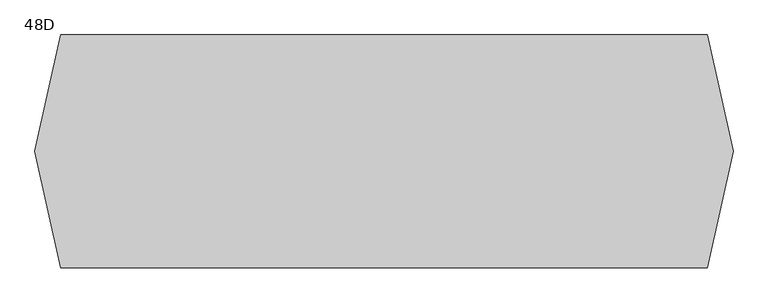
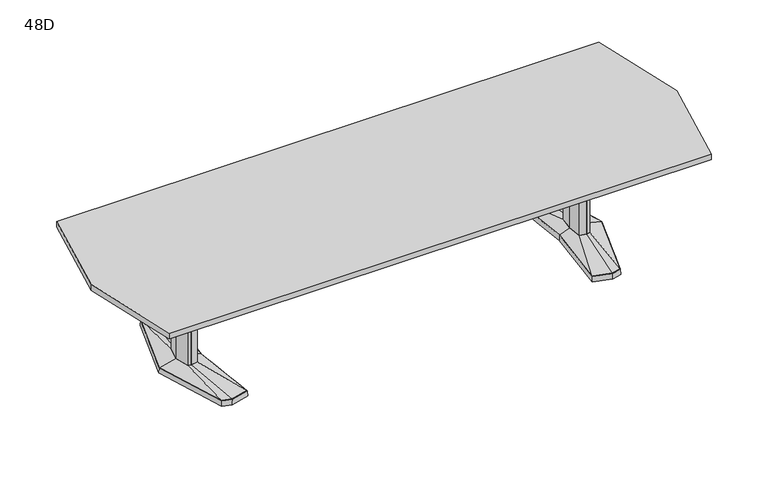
"""IFC4 building model written with IfcOpenShell, lengths in millimetres: furniture geometry, Coalesse_AM_Table_Conference_ETable2_Faceted_12ft_AluminiumBase : 48D."""

from ifc_helpers import new_model, si_unit, frame, origin, place, context, project, spatial, polyline, outline, extrude, faceted_brep, source, transform, mapped, element, save
from ifc_brep_helpers import plane_surface, spline_surface, advanced_brep


def furniture_48d_c501f17e(model_context):
    return source(origin(), model_context, "Body", "SolidModel", [
        faceted_brep([(1165.3869335, 455.5848221, 38.1), (1055.8093777, 426.2263816, 38.1), (1096.9726217, 0.0, 38.1), (1055.8093777, -426.2263816, 38.1), (1165.3869335, -455.5848221, 38.1), (1221.5132896, -440.5478297, 38.1), (1358.8246769, 0.0, 38.1), (1221.5132896, 440.5478297, 38.1), (1165.3869254, 457.2283104, 3.175), (1222.7686972, 441.8549756, 3.175), (1360.4875, 0.0, 3.175), (1222.7686972, -441.8549756, 3.175), (1165.3869254, -457.2283104, 3.175), (1054.1, -427.4118891, 3.175), (1095.3777356, 0.0, 3.175), (1054.1, 427.4118891, 3.175), (1168.976365, 428.3273875, 3.175), (1063.9280728, 402.1057253, 3.175), (1072.046768, 377.985069, 3.175), (1172.5657966, 401.0699529, 3.175), (1223.1254225, 387.524361, 3.175), (1222.3193561, 414.0360954, 3.175), (1168.976365, -428.3273875, 3.175), (1222.3193561, -414.0360954, 3.175), (1223.1254225, -387.524361, 3.175), (1172.5657966, -401.0699529, 3.175), (1072.046768, -377.985069, 3.175), (1063.9280728, -402.1057253, 3.175), (1295.5716121, 0.0, 3.175), (1263.3022111, 120.4193755, 3.175), (1214.6549722, 133.471665, 3.175), (1134.7743026, 119.4176561, 3.175), (1123.6430966, 0.0, 3.175), (1134.7743026, -119.4176561, 3.175), (1214.6549722, -133.471665, 3.175), (1263.3022111, -120.4193755, 3.175), (1168.976365, 428.3273875, 0.0), (1222.3193561, 414.0360954, 0.0), (1223.1254225, 387.524361, 0.0), (1172.5657966, 401.0699529, 0.0), (1072.046768, 377.985069, 0.0), (1063.9280728, 402.1057253, 0.0), (1168.976365, -428.3273875, 0.0), (1063.9280728, -402.1057253, 0.0), (1072.046768, -377.985069, 0.0), (1172.5657966, -401.0699529, 0.0), (1223.1254225, -387.524361, 0.0), (1222.3193561, -414.0360954, 0.0), (1295.5716121, 0.0, 0.0), (1263.3022111, -120.4193755, 0.0), (1214.6549722, -133.471665, 0.0), (1134.7743026, -119.4176561, 0.0), (1123.6430966, 0.0, 0.0), (1134.7743026, 119.4176561, 0.0), (1214.6549722, 133.471665, 0.0), (1263.3022111, 120.4193755, 0.0)], [[[0, 1, 2, 3, 4, 5, 6, 7]], [[8, 9, 10, 11, 12, 13, 14, 15], [16, 17, 18, 19, 20, 21], [22, 23, 24, 25, 26, 27], [28, 29, 30, 31, 32, 33, 34, 35]], [[7, 9, 8, 0]], [[6, 10, 9, 7]], [[5, 11, 10, 6]], [[4, 12, 11, 5]], [[3, 13, 12, 4]], [[2, 14, 13, 3]], [[1, 15, 14, 2]], [[0, 8, 15, 1]], [[36, 37, 38, 39, 40, 41]], [[42, 43, 44, 45, 46, 47]], [[48, 49, 50, 51, 52, 53, 54, 55]], [[36, 16, 21, 37]], [[37, 21, 20, 38]], [[38, 20, 19, 39]], [[39, 19, 18, 40]], [[40, 18, 17, 41]], [[41, 17, 16, 36]], [[42, 22, 27, 43]], [[43, 27, 26, 44]], [[44, 26, 25, 45]], [[45, 25, 24, 46]], [[46, 24, 23, 47]], [[47, 23, 22, 42]], [[48, 28, 35, 49]], [[49, 35, 34, 50]], [[50, 34, 33, 51]], [[51, 33, 32, 52]], [[52, 32, 31, 53]], [[53, 31, 30, 54]], [[54, 30, 29, 55]], [[55, 29, 28, 48]]]),
        faceted_brep([(1256.1273336, 0.0, 698.5), (1232.1921046, 89.3188359, 698.5), (1215.3387484, 93.8406728, 698.5), (1212.9389011, 94.4845635, 698.5), (1170.011396, 86.9320037, 698.5), (1161.9082556, 0.0, 698.5), (1170.011396, -86.9320037, 698.5), (1212.9389011, -94.4845635, 698.5), (1215.3387484, -93.8406728, 698.5), (1232.1921046, -89.3188359, 698.5), (1256.1273336, 0.0, 63.5), (1232.1921046, -89.3188359, 63.5), (1215.3387484, -93.8406728, 63.5), (1212.9389011, -94.4845635, 63.5), (1170.011396, -86.9320037, 63.5), (1161.9082556, 0.0, 63.5), (1170.011396, 86.9320037, 63.5), (1212.9389011, 94.4845635, 63.5), (1215.3387484, 93.8406728, 63.5), (1232.1921046, 89.3188359, 63.5)], [[[0, 1, 2, 3, 4, 5, 6, 7, 8, 9]], [[10, 11, 12, 13, 14, 15, 16, 17, 18, 19]], [[9, 11, 10, 0]], [[8, 12, 11, 9]], [[7, 13, 12, 8]], [[6, 14, 13, 7]], [[5, 15, 14, 6]], [[4, 16, 15, 5]], [[3, 17, 16, 4]], [[2, 18, 17, 3]], [[1, 19, 18, 2]], [[0, 10, 19, 1]]]),
        advanced_brep(
        [(1212.9389011, 94.4845635, 63.5), (1170.011396, 86.9320037, 63.5), (1161.9082556, 0.0, 63.5), (1170.011396, -86.9320037, 63.5), (1212.9389011, -94.4845635, 63.5), (1232.1921046, -89.3188359, 63.5), (1256.1273336, 0.0, 63.5), (1232.1921046, 89.3188359, 63.5), (1165.3869335, 455.5848221, 38.1), (1221.5132896, 440.5478297, 38.1), (1358.8246769, 0.0, 38.1), (1221.5132896, -440.5478297, 38.1), (1165.3869335, -455.5848221, 38.1), (1055.8093777, -426.2263816, 38.1), (1096.9726217, 0.0, 38.1), (1055.8093777, 426.2263816, 38.1)],
        [
            (0, 1),
            (1, 2),
            (2, 3),
            (3, 4),
            (4, 5),
            (5, 6),
            (6, 7),
            (7, 0),
            (8, 9),
            (9, 10),
            (10, 11),
            (11, 12),
            (12, 13),
            (13, 14),
            (14, 15),
            (15, 8),
            (8, 0),
            (7, 9),
            (6, 10),
            (5, 11),
            (4, 12),
            (3, 13),
            (2, 14),
            (1, 15),
        ],
        [
            plane_surface(frame((1206.0400491, 0.0, 63.5), z_axis=(0.0, 0.0, 1.0), x_axis=(-0.25884244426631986, -0.9659195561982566, 0.0))),
            plane_surface(frame((1167.6520625, 0.0, 38.1), z_axis=(0.0, 0.0, -1.0), x_axis=(-0.25884244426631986, -0.9659195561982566, 0.0))),
            spline_surface(1, 1, [[(1165.3869335, 455.5848221, 38.1), (1221.5132896, 440.5478297, 38.1)], [(1212.9389011, 94.4845635, 63.5), (1232.1921046, 89.3188359, 63.5)]], [2, 2], [2, 2], [0.0, 1.0], [0.0, 1.0]),
            spline_surface(1, 1, [[(1221.5132896, 440.5478297, 38.1), (1358.8246769, 0.0, 38.1)], [(1232.1921046, 89.3188359, 63.5), (1256.1273336, 0.0, 63.5)]], [2, 2], [2, 2], [0.0, 1.0], [0.0, 1.0]),
            spline_surface(1, 1, [[(1358.8246769, 0.0, 38.1), (1221.5132896, -440.5478297, 38.1)], [(1256.1273336, 0.0, 63.5), (1232.1921046, -89.3188359, 63.5)]], [2, 2], [2, 2], [0.0, 1.0], [0.0, 1.0]),
            spline_surface(1, 1, [[(1221.5132896, -440.5478297, 38.1), (1165.3869335, -455.5848221, 38.1)], [(1232.1921046, -89.3188359, 63.5), (1212.9389011, -94.4845635, 63.5)]], [2, 2], [2, 2], [0.0, 1.0], [0.0, 1.0]),
            spline_surface(1, 1, [[(1165.3869335, -455.5848221, 38.1), (1055.8093777, -426.2263816, 38.1)], [(1212.9389011, -94.4845635, 63.5), (1170.011396, -86.9320037, 63.5)]], [2, 2], [2, 2], [0.0, 1.0], [0.0, 1.0]),
            spline_surface(1, 1, [[(1055.8093777, -426.2263816, 38.1), (1096.9726217, 0.0, 38.1)], [(1170.011396, -86.9320037, 63.5), (1161.9082556, 0.0, 63.5)]], [2, 2], [2, 2], [0.0, 1.0], [0.0, 1.0]),
            spline_surface(1, 1, [[(1096.9726217, 0.0, 38.1), (1055.8093777, 426.2263816, 38.1)], [(1161.9082556, 0.0, 63.5), (1170.011396, 86.9320037, 63.5)]], [2, 2], [2, 2], [0.0, 1.0], [0.0, 1.0]),
            spline_surface(1, 1, [[(1055.8093777, 426.2263816, 38.1), (1165.3869335, 455.5848221, 38.1)], [(1170.011396, 86.9320037, 63.5), (1212.9389011, 94.4845635, 63.5)]], [2, 2], [2, 2], [0.0, 1.0], [0.0, 1.0]),
        ],
        [
            (0, [[1, 2, 3, 4, 5, 6, 7, 8]]),
            (1, [[9, 10, 11, 12, 13, 14, 15, 16]]),
            (2, [[17, -8, 18, -9]]),
            (3, [[-18, -7, 19, -10]]),
            (4, [[-19, -6, 20, -11]]),
            (5, [[-20, -5, 21, -12]]),
            (6, [[-21, -4, 22, -13]]),
            (7, [[-22, -3, 23, -14]]),
            (8, [[-23, -2, 24, -15]]),
            (9, [[-24, -1, -17, -16]]),
        ],
    ),
        faceted_brep([(-1210.6306835, 455.5848221, 38.1), (-1266.7570396, 440.5478297, 38.1), (-1404.0684269, 0.0, 38.1), (-1266.7570396, -440.5478297, 38.1), (-1210.6306835, -455.5848221, 38.1), (-1101.0531277, -426.2263816, 38.1), (-1142.2163717, 0.0, 38.1), (-1101.0531277, 426.2263816, 38.1), (-1210.6306754, 457.2283104, 3.175), (-1099.34375, 427.4118891, 3.175), (-1140.6214856, 0.0, 3.175), (-1099.34375, -427.4118891, 3.175), (-1210.6306754, -457.2283104, 3.175), (-1268.0124472, -441.8549756, 3.175), (-1405.73125, 0.0, 3.175), (-1268.0124472, 441.8549756, 3.175), (-1214.220115, 428.3273875, 3.175), (-1267.5631061, 414.0360954, 3.175), (-1268.3691725, 387.524361, 3.175), (-1217.8095466, 401.0699529, 3.175), (-1117.290518, 377.985069, 3.175), (-1109.1718228, 402.1057253, 3.175), (-1214.220115, -428.3273875, 3.175), (-1109.1718228, -402.1057253, 3.175), (-1117.290518, -377.985069, 3.175), (-1217.8095466, -401.0699529, 3.175), (-1268.3691725, -387.524361, 3.175), (-1267.5631061, -414.0360954, 3.175), (-1340.8153621, 0.0, 3.175), (-1308.5459611, -120.4193755, 3.175), (-1259.8987222, -133.471665, 3.175), (-1180.0180526, -119.4176561, 3.175), (-1168.8868466, 0.0, 3.175), (-1180.0180526, 119.4176561, 3.175), (-1259.8987222, 133.471665, 3.175), (-1308.5459611, 120.4193755, 3.175), (-1214.220115, 428.3273875, 0.0), (-1109.1718228, 402.1057253, 0.0), (-1117.290518, 377.985069, 0.0), (-1217.8095466, 401.0699529, 0.0), (-1268.3691725, 387.524361, 0.0), (-1267.5631061, 414.0360954, 0.0), (-1214.220115, -428.3273875, 0.0), (-1267.5631061, -414.0360954, 0.0), (-1268.3691725, -387.524361, 0.0), (-1217.8095466, -401.0699529, 0.0), (-1117.290518, -377.985069, 0.0), (-1109.1718228, -402.1057253, 0.0), (-1340.8153621, 0.0, 0.0), (-1308.5459611, 120.4193755, 0.0), (-1259.8987222, 133.471665, 0.0), (-1180.0180526, 119.4176561, 0.0), (-1168.8868466, 0.0, 0.0), (-1180.0180526, -119.4176561, 0.0), (-1259.8987222, -133.471665, 0.0), (-1308.5459611, -120.4193755, 0.0)], [[[0, 1, 2, 3, 4, 5, 6, 7]], [[8, 9, 10, 11, 12, 13, 14, 15], [16, 17, 18, 19, 20, 21], [22, 23, 24, 25, 26, 27], [28, 29, 30, 31, 32, 33, 34, 35]], [[1, 0, 8, 15]], [[2, 1, 15, 14]], [[3, 2, 14, 13]], [[4, 3, 13, 12]], [[5, 4, 12, 11]], [[6, 5, 11, 10]], [[7, 6, 10, 9]], [[0, 7, 9, 8]], [[36, 37, 38, 39, 40, 41]], [[42, 43, 44, 45, 46, 47]], [[48, 49, 50, 51, 52, 53, 54, 55]], [[36, 41, 17, 16]], [[41, 40, 18, 17]], [[40, 39, 19, 18]], [[39, 38, 20, 19]], [[38, 37, 21, 20]], [[37, 36, 16, 21]], [[42, 47, 23, 22]], [[47, 46, 24, 23]], [[46, 45, 25, 24]], [[45, 44, 26, 25]], [[44, 43, 27, 26]], [[43, 42, 22, 27]], [[48, 55, 29, 28]], [[55, 54, 30, 29]], [[54, 53, 31, 30]], [[53, 52, 32, 31]], [[52, 51, 33, 32]], [[51, 50, 34, 33]], [[50, 49, 35, 34]], [[49, 48, 28, 35]]]),
        faceted_brep([(-1301.3710836, 0.0, 698.5), (-1277.4358546, -89.3188359, 698.5), (-1260.5824984, -93.8406728, 698.5), (-1258.1826511, -94.4845635, 698.5), (-1215.255146, -86.9320037, 698.5), (-1207.1520056, 0.0, 698.5), (-1215.255146, 86.9320037, 698.5), (-1258.1826511, 94.4845635, 698.5), (-1260.5824984, 93.8406728, 698.5), (-1277.4358546, 89.3188359, 698.5), (-1301.3710836, 0.0, 63.5), (-1277.4358546, 89.3188359, 63.5), (-1260.5824984, 93.8406728, 63.5), (-1258.1826511, 94.4845635, 63.5), (-1215.255146, 86.9320037, 63.5), (-1207.1520056, 0.0, 63.5), (-1215.255146, -86.9320037, 63.5), (-1258.1826511, -94.4845635, 63.5), (-1260.5824984, -93.8406728, 63.5), (-1277.4358546, -89.3188359, 63.5)], [[[0, 1, 2, 3, 4, 5, 6, 7, 8, 9]], [[10, 11, 12, 13, 14, 15, 16, 17, 18, 19]], [[1, 0, 10, 19]], [[2, 1, 19, 18]], [[3, 2, 18, 17]], [[4, 3, 17, 16]], [[5, 4, 16, 15]], [[6, 5, 15, 14]], [[7, 6, 14, 13]], [[8, 7, 13, 12]], [[9, 8, 12, 11]], [[0, 9, 11, 10]]]),
        advanced_brep(
        [(-1258.1826511, 94.4845635, 63.5), (-1277.4358546, 89.3188359, 63.5), (-1301.3710836, 0.0, 63.5), (-1277.4358546, -89.3188359, 63.5), (-1258.1826511, -94.4845635, 63.5), (-1215.255146, -86.9320037, 63.5), (-1207.1520056, 0.0, 63.5), (-1215.255146, 86.9320037, 63.5), (-1210.6306835, 455.5848221, 38.1), (-1101.0531277, 426.2263816, 38.1), (-1142.2163717, 0.0, 38.1), (-1101.0531277, -426.2263816, 38.1), (-1210.6306835, -455.5848221, 38.1), (-1266.7570396, -440.5478297, 38.1), (-1404.0684269, 0.0, 38.1), (-1266.7570396, 440.5478297, 38.1)],
        [
            (0, 1),
            (1, 2),
            (2, 3),
            (3, 4),
            (4, 5),
            (5, 6),
            (6, 7),
            (7, 0),
            (8, 9),
            (9, 10),
            (10, 11),
            (11, 12),
            (12, 13),
            (13, 14),
            (14, 15),
            (15, 8),
            (15, 1),
            (0, 8),
            (14, 2),
            (13, 3),
            (12, 4),
            (11, 5),
            (10, 6),
            (9, 7),
        ],
        [
            plane_surface(frame((-1251.2837991, 0.0, 63.5), z_axis=(0.0, 0.0, 1.0), x_axis=(0.25884244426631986, -0.9659195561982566, 0.0))),
            plane_surface(frame((-1212.8958125, 0.0, 38.1), z_axis=(0.0, 0.0, -1.0), x_axis=(0.25884244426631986, -0.9659195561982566, 0.0))),
            spline_surface(1, 1, [[(-1210.6306835, 455.5848221, 38.1), (-1258.1826511, 94.4845635, 63.5)], [(-1266.7570396, 440.5478297, 38.1), (-1277.4358546, 89.3188359, 63.5)]], [2, 2], [2, 2], [0.0, 1.0], [0.0, 1.0]),
            spline_surface(1, 1, [[(-1266.7570396, 440.5478297, 38.1), (-1277.4358546, 89.3188359, 63.5)], [(-1404.0684269, 0.0, 38.1), (-1301.3710836, 0.0, 63.5)]], [2, 2], [2, 2], [0.0, 1.0], [0.0, 1.0]),
            spline_surface(1, 1, [[(-1404.0684269, 0.0, 38.1), (-1301.3710836, 0.0, 63.5)], [(-1266.7570396, -440.5478297, 38.1), (-1277.4358546, -89.3188359, 63.5)]], [2, 2], [2, 2], [0.0, 1.0], [0.0, 1.0]),
            spline_surface(1, 1, [[(-1266.7570396, -440.5478297, 38.1), (-1277.4358546, -89.3188359, 63.5)], [(-1210.6306835, -455.5848221, 38.1), (-1258.1826511, -94.4845635, 63.5)]], [2, 2], [2, 2], [0.0, 1.0], [0.0, 1.0]),
            spline_surface(1, 1, [[(-1210.6306835, -455.5848221, 38.1), (-1258.1826511, -94.4845635, 63.5)], [(-1101.0531277, -426.2263816, 38.1), (-1215.255146, -86.9320037, 63.5)]], [2, 2], [2, 2], [0.0, 1.0], [0.0, 1.0]),
            spline_surface(1, 1, [[(-1101.0531277, -426.2263816, 38.1), (-1215.255146, -86.9320037, 63.5)], [(-1142.2163717, 0.0, 38.1), (-1207.1520056, 0.0, 63.5)]], [2, 2], [2, 2], [0.0, 1.0], [0.0, 1.0]),
            spline_surface(1, 1, [[(-1142.2163717, 0.0, 38.1), (-1207.1520056, 0.0, 63.5)], [(-1101.0531277, 426.2263816, 38.1), (-1215.255146, 86.9320037, 63.5)]], [2, 2], [2, 2], [0.0, 1.0], [0.0, 1.0]),
            spline_surface(1, 1, [[(-1101.0531277, 426.2263816, 38.1), (-1215.255146, 86.9320037, 63.5)], [(-1210.6306835, 455.5848221, 38.1), (-1258.1826511, 94.4845635, 63.5)]], [2, 2], [2, 2], [0.0, 1.0], [0.0, 1.0]),
        ],
        [
            (0, [[1, 2, 3, 4, 5, 6, 7, 8]]),
            (1, [[9, 10, 11, 12, 13, 14, 15, 16]]),
            (2, [[-16, 17, -1, 18]]),
            (3, [[-15, 19, -2, -17]]),
            (4, [[-14, 20, -3, -19]]),
            (5, [[-13, 21, -4, -20]]),
            (6, [[-12, 22, -5, -21]]),
            (7, [[-11, 23, -6, -22]]),
            (8, [[-10, 24, -7, -23]]),
            (9, [[-9, -18, -8, -24]]),
        ],
    ),
        extrude(outline(polyline([(-1828.8, 0.0), (-1693.6541794, 609.6), (1693.6541794, 609.6), (1828.8, 0.0), (1693.6541794, -609.6), (-1693.6541794, -609.6), (-1828.8, 0.0)])), frame((0.0, 0.0, 698.5), z_axis=(0.0, 0.0, 1.0), x_axis=(1.0, 0.0, 0.0)), (0.0, 0.0, 1.0), 38.1),
        extrude(outline(polyline([(96.8375, 698.5), (103.1875, 698.5), (103.1875, 476.25), (-103.1875, 476.25), (-103.1875, 698.5), (-96.8375, 698.5), (-96.8375, 482.6), (96.8375, 482.6), (96.8375, 698.5)])), frame((-1207.29375, 0.0, 0.0), z_axis=(1.0, 0.0, 0.0), x_axis=(0.0, 1.0, 0.0)), (0.0, 0.0, 1.0), 2414.5875),
    ])


if __name__ == "__main__":
    model = new_model("IFC4")
    model_context = context("Model", 3, world=origin())
    ifc_project = project(units=[si_unit("LENGTHUNIT", "METRE", prefix="MILLI")], contexts=[model_context])
    site = spatial("IfcSite", under=ifc_project)
    building = spatial("IfcBuilding", under=site)
    placement = place(None, origin())
    furniture_48d_shape = furniture_48d_c501f17e(model_context)
    element("IfcFurniture", 1, ObjectType="Coalesse_AM_Table_Conference_ETable2_Faceted_12ft_AluminiumBase : 48D", at=placement, inside=building, context=model_context, shape_type="MappedRepresentation", body=[
        mapped(furniture_48d_shape, transform((0.0, 0.0, 0.0), x_axis=(1.0, 0.0, 0.0), y_axis=(0.0, 1.0, 0.0), z_axis=(0.0, 0.0, 1.0))),
    ])
    save(model, "model.ifc")
